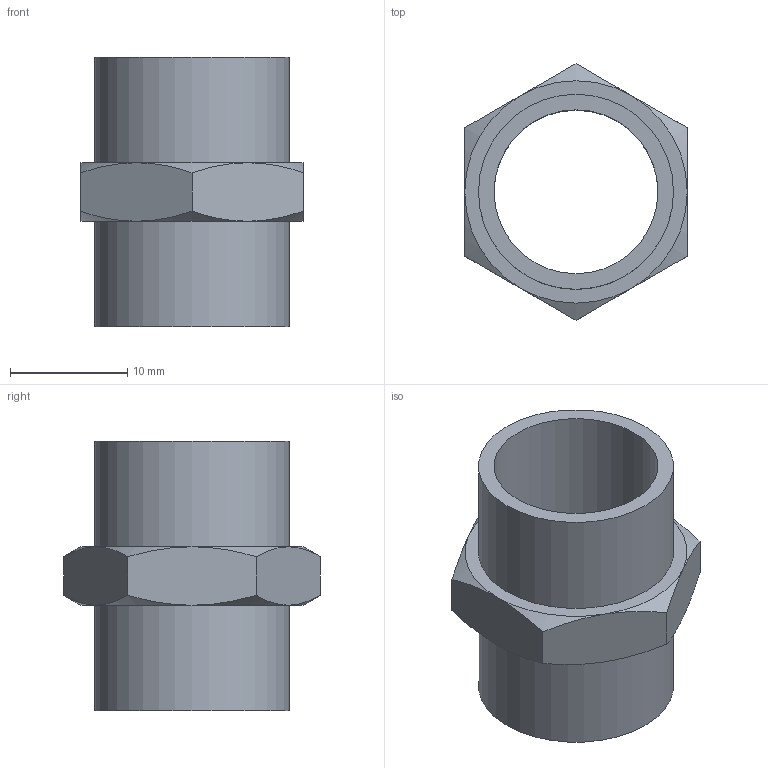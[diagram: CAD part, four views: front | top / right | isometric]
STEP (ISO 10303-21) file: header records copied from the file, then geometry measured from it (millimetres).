
FILE_DESCRIPTION(/* description */ (''),/* implementation_level */ '2;1');
FILE_NAME(/* name */ 'C:\PNX_VAULTFOLDER\Area Tecnica\Disegni\VARIE-3D\Componenti\raccordi\101####\1013838.stp',/* time_stamp */ '2019-09-13T10:22:33+02:00',/* author */ ('maniean1'),/* organization */ ('Pneumax S.p.A.'),/* preprocessor_version */ 'ST-DEVELOPER v17',/* originating_system */ 'Autodesk Inventor 2019',/* authorisation */ '');
FILE_SCHEMA (('AUTOMOTIVE_DESIGN { 1 0 10303 214 3 1 1 }'));
Length unit declared in the file: millimetre
Products named in the file (1): 1013838
Bounding box: 19 x 21.94 x 23 mm (x, y, z)
Volume: 1932.5 mm3; surface area: 2571 mm2
Topology: 1 solids, 1 shells, 25 faces, 56 edges, 35 vertices
Faces by surface type: cone 12, plane 10, cylinder 3
Full cylindrical faces by diameter (mm): 14 x1, 16.662 x2
Entity records: 741 total; most frequent: CARTESIAN_POINT 165, ORIENTED_EDGE 112, DIRECTION 107, EDGE_CURVE 56, AXIS2_PLACEMENT_3D 49, VERTEX_POINT 35, EDGE_LOOP 29, STYLED_ITEM 26
